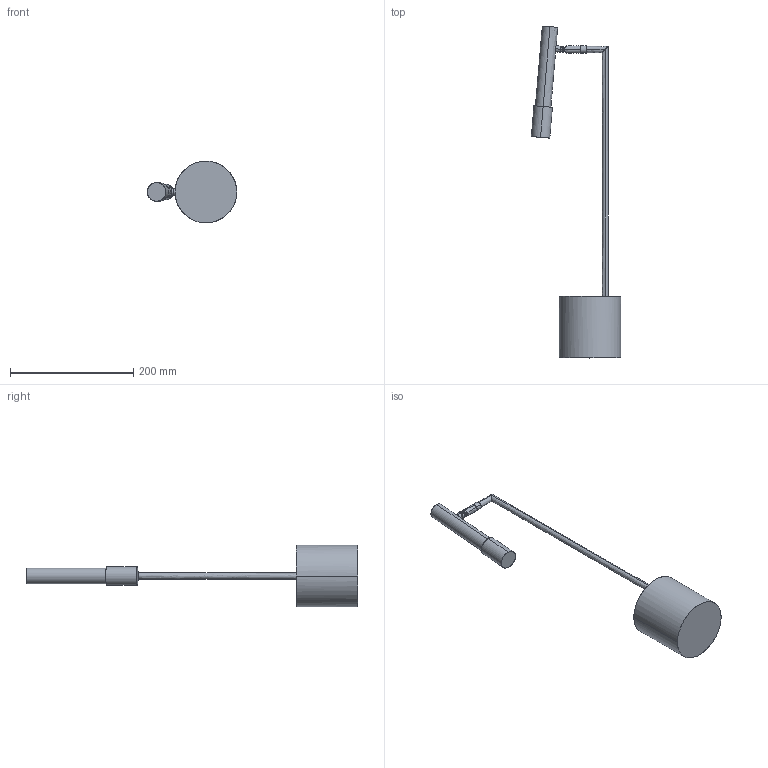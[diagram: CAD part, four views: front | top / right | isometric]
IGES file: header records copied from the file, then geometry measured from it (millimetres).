
Start section: SolidWorks IGES file using analytic representation for surfaces
Global section: file name: C:\Users\Agus\Desktop\Novedades Enero_2022 - 3D\S1297\S1297.IGS; native system: SolidWorks 2018; preprocessor: SolidWorks 2018; author: Agus; date: 220221.111727; units: millimetre
Bounding box: 144.89 x 538.06 x 100 mm (x, y, z)
Surface area: 82411 mm2 (no closed solid volume)
Topology: 0 solids, 0 shells, 57 faces, 1448 edges, 1445 vertices
Faces by surface type: revolution 34, bspline 23
